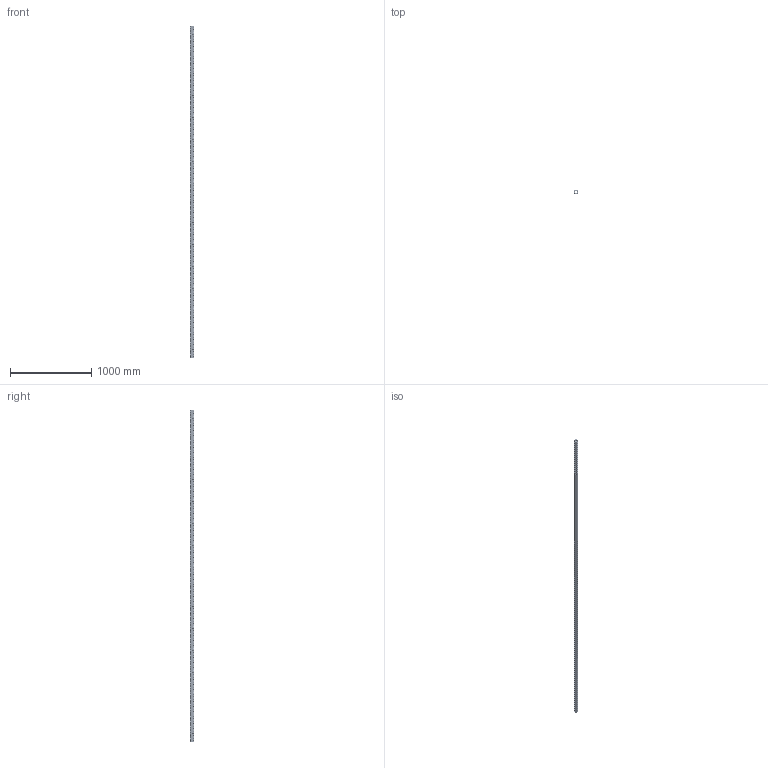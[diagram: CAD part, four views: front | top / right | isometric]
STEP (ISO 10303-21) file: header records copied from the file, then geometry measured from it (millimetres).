
FILE_DESCRIPTION(('CATIA V5 STEP Exchange'),'2;1');
FILE_NAME('U:\Room\唐宝山\EGT002\46-01-010365-01-EGT002-4078.stp','2021-08-25T01:15:07+00:00',('none'),('none'),'CATIA Version 5 Release 21 GA (IN-10)','CATIA V5 STEP AP203','none');
FILE_SCHEMA(('CONFIG_CONTROL_DESIGN'));
Products named in the file (1): 46-01-010365-01-EGT002-4078
Bounding box: 50 x 50 x 4078 mm (x, y, z)
Volume: 2905814.7 mm3; surface area: 1399062.1 mm2
Topology: 1 solids, 1 shells, 5524 faces, 15206 edges, 9412 vertices
Faces by surface type: cone 3264, cylinder 2234, plane 26
Entity records: 186560 total; most frequent: CARTESIAN_POINT 48915, ORIENTED_EDGE 30412, DIRECTION 23488, EDGE_CURVE 15206, AXIS2_PLACEMENT_3D 12123, VERTEX_POINT 9412, EDGE_LOOP 7430, CIRCLE 6598
